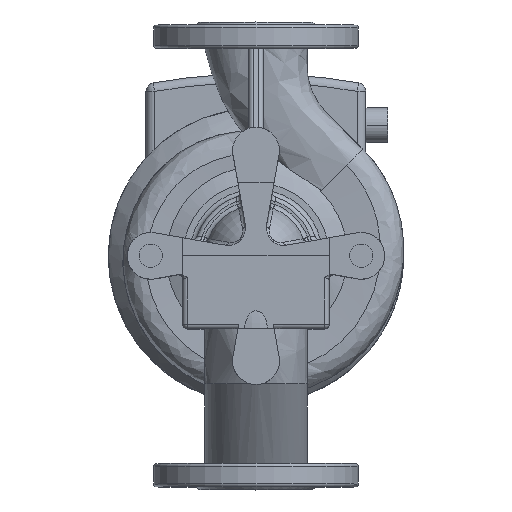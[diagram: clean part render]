
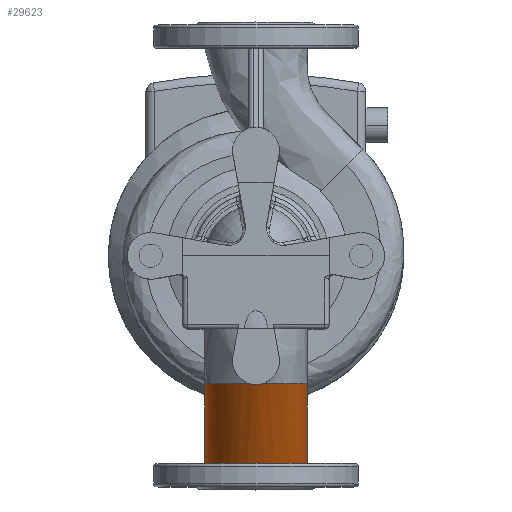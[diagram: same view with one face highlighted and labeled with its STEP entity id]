
A CAD part, top view. The second image highlights one B-rep face of the part: STEP entity #29623.
In plain terms, the highlighted free-form (B-spline) face has degree [3, 1] with [4, 2] control points.
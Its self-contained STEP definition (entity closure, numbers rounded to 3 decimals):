
#145 = CARTESIAN_POINT ( 'NONE',  ( 0., -142., 127. ) ) ;
#457 = DIRECTION ( 'NONE',  ( 1., 0., 0. ) ) ;
#861 = DIRECTION ( 'NONE',  ( 0., 1., 0. ) ) ;
#1015 = FACE_OUTER_BOUND ( 'NONE', #18300, .T. ) ;
#1543 = EDGE_CURVE ( 'NONE', #22932, #2804, #8124, .T. ) ;
#1632 =( BOUNDED_SURFACE ( )  B_SPLINE_SURFACE ( 3, 1, ( 
 ( #39079, #40985 ),
 ( #18920, #21224 ),
 ( #24543, #21634 ),
 ( #34527, #6247 ) ),
 .UNSPECIFIED., .F., .F., .F. ) 
 B_SPLINE_SURFACE_WITH_KNOTS ( ( 4, 4 ),
 ( 2, 2 ),
 ( 0.5, 1. ),
 ( 0., 1. ),
 .UNSPECIFIED. ) 
 GEOMETRIC_REPRESENTATION_ITEM ( )  RATIONAL_B_SPLINE_SURFACE ( (
 ( 1., 1.),
 ( 0.333, 0.333),
 ( 0.333, 0.333),
 ( 1., 1.) ) ) 
 REPRESENTATION_ITEM ( '' )  SURFACE ( )  );
#1832 = CARTESIAN_POINT ( 'NONE',  ( -4.118, -87.461, 199.946 ) ) ;
#2804 = VERTEX_POINT ( 'NONE', #1832 ) ;
#3091 = ORIENTED_EDGE ( 'NONE', *, *, #1543, .T. ) ;
#3255 = CARTESIAN_POINT ( 'NONE',  ( -2.764, -87.822, 199.853 ) ) ;
#6171 = CARTESIAN_POINT ( 'NONE',  ( 0.189, -88., 199.811 ) ) ;
#6247 = CARTESIAN_POINT ( 'NONE',  ( 35., -142., 127. ) ) ;
#6377 = CARTESIAN_POINT ( 'NONE',  ( 1.224, -87.96, 199.821 ) ) ;
#8124 = B_SPLINE_CURVE_WITH_KNOTS ( 'NONE', 3,
 ( #8868, #15309, #22156, #34461, #6377, #21761, #18838, #6171, #27991, #3255, #28608 ),
 .UNSPECIFIED., .F., .F.,
 ( 4, 2, 1, 2, 2, 4 ),
 ( 0., 0.25, 0.375, 0.438, 0.5, 1. ),
 .UNSPECIFIED. ) ;
#8826 = CARTESIAN_POINT ( 'NONE',  ( -35., -142., 127. ) ) ;
#8868 = CARTESIAN_POINT ( 'NONE',  ( 4.118, -87.461, 199.946 ) ) ;
#8871 = DIRECTION ( 'NONE',  ( 0., 1., 0. ) ) ;
#9846 = AXIS2_PLACEMENT_3D ( 'NONE', #11596, #8871, #21156 ) ;
#10522 = EDGE_CURVE ( 'NONE', #31466, #13201, #26000, .T. ) ;
#11596 = CARTESIAN_POINT ( 'NONE',  ( 0., -87.461, 165.189 ) ) ;
#12841 = CARTESIAN_POINT ( 'NONE',  ( 35., -87.461, 165.189 ) ) ;
#13201 = VERTEX_POINT ( 'NONE', #32516 ) ;
#13524 = EDGE_CURVE ( 'NONE', #19434, #2804, #20270, .T. ) ;
#13878 = CARTESIAN_POINT ( 'NONE',  ( 35., -142., 127. ) ) ;
#14000 = ORIENTED_EDGE ( 'NONE', *, *, #10522, .F. ) ;
#14213 = CARTESIAN_POINT ( 'NONE',  ( 4.118, -87.461, 199.946 ) ) ;
#15309 = CARTESIAN_POINT ( 'NONE',  ( 3.446, -87.64, 199.9 ) ) ;
#16395 = ORIENTED_EDGE ( 'NONE', *, *, #35396, .T. ) ;
#18278 = AXIS2_PLACEMENT_3D ( 'NONE', #22678, #861, #457 ) ;
#18300 = EDGE_LOOP ( 'NONE', ( #34430, #16395, #18552, #14000, #35288, #3091 ) ) ;
#18552 = ORIENTED_EDGE ( 'NONE', *, *, #26918, .T. ) ;
#18838 = CARTESIAN_POINT ( 'NONE',  ( 0.361, -87.997, 199.812 ) ) ;
#18920 = CARTESIAN_POINT ( 'NONE',  ( -35., -87.461, 235.189 ) ) ;
#19250 = DIRECTION ( 'NONE',  ( 0., 1., 0. ) ) ;
#19310 = CIRCLE ( 'NONE', #31286, 35. ) ;
#19434 = VERTEX_POINT ( 'NONE', #32802 ) ;
#19693 = CARTESIAN_POINT ( 'NONE',  ( 35., -87.461, 165.189 ) ) ;
#20270 = CIRCLE ( 'NONE', #18278, 35. ) ;
#21156 = DIRECTION ( 'NONE',  ( 1., 0., 0. ) ) ;
#21224 = CARTESIAN_POINT ( 'NONE',  ( -35., -142., 197. ) ) ;
#21634 = CARTESIAN_POINT ( 'NONE',  ( 35., -142., 197. ) ) ;
#21761 = CARTESIAN_POINT ( 'NONE',  ( 0.707, -87.985, 199.815 ) ) ;
#22156 = CARTESIAN_POINT ( 'NONE',  ( 2.766, -87.774, 199.866 ) ) ;
#22374 = DIRECTION ( 'NONE',  ( 1., 0., 0. ) ) ;
#22678 = CARTESIAN_POINT ( 'NONE',  ( 0., -87.461, 165.189 ) ) ;
#22932 = VERTEX_POINT ( 'NONE', #14213 ) ;
#24543 = CARTESIAN_POINT ( 'NONE',  ( 35., -87.461, 235.189 ) ) ;
#26000 = B_SPLINE_CURVE_WITH_KNOTS ( 'NONE', 1,
 ( #19693, #13878 ),
 .UNSPECIFIED., .F., .F.,
 ( 2, 2 ),
 ( 0., 1. ),
 .UNSPECIFIED. ) ;
#26918 = EDGE_CURVE ( 'NONE', #32875, #13201, #19310, .T. ) ;
#27991 = CARTESIAN_POINT ( 'NONE',  ( -1.382, -88.001, 199.811 ) ) ;
#28608 = CARTESIAN_POINT ( 'NONE',  ( -4.118, -87.461, 199.946 ) ) ;
#29623 = ADVANCED_FACE ( 'NONE', ( #1015 ), #1632, .F. ) ;
#30697 = CARTESIAN_POINT ( 'NONE',  ( -35., -87.461, 165.189 ) ) ;
#31286 = AXIS2_PLACEMENT_3D ( 'NONE', #145, #19250, #22374 ) ;
#31466 = VERTEX_POINT ( 'NONE', #12841 ) ;
#31715 = B_SPLINE_CURVE_WITH_KNOTS ( 'NONE', 1,
 ( #30697, #40487 ),
 .UNSPECIFIED., .F., .F.,
 ( 2, 2 ),
 ( 0., 1. ),
 .UNSPECIFIED. ) ;
#32516 = CARTESIAN_POINT ( 'NONE',  ( 35., -142., 127. ) ) ;
#32802 = CARTESIAN_POINT ( 'NONE',  ( -35., -87.461, 165.189 ) ) ;
#32875 = VERTEX_POINT ( 'NONE', #8826 ) ;
#34420 = CIRCLE ( 'NONE', #9846, 35. ) ;
#34430 = ORIENTED_EDGE ( 'NONE', *, *, #13524, .F. ) ;
#34461 = CARTESIAN_POINT ( 'NONE',  ( 1.74, -87.909, 199.833 ) ) ;
#34527 = CARTESIAN_POINT ( 'NONE',  ( 35., -87.461, 165.189 ) ) ;
#35288 = ORIENTED_EDGE ( 'NONE', *, *, #37467, .F. ) ;
#35396 = EDGE_CURVE ( 'NONE', #19434, #32875, #31715, .T. ) ;
#37467 = EDGE_CURVE ( 'NONE', #22932, #31466, #34420, .T. ) ;
#39079 = CARTESIAN_POINT ( 'NONE',  ( -35., -87.461, 165.189 ) ) ;
#40487 = CARTESIAN_POINT ( 'NONE',  ( -35., -142., 127. ) ) ;
#40985 = CARTESIAN_POINT ( 'NONE',  ( -35., -142., 127. ) ) ;
